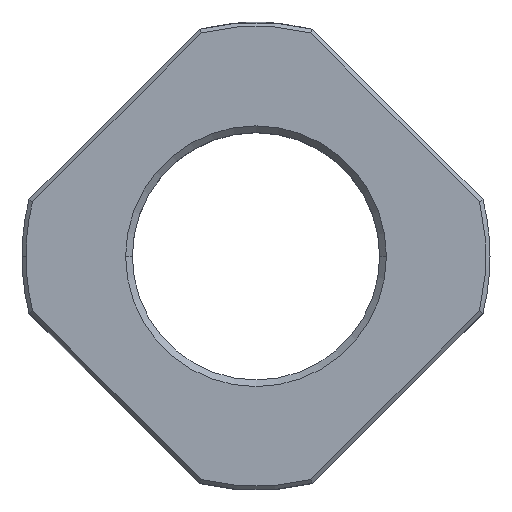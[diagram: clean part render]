
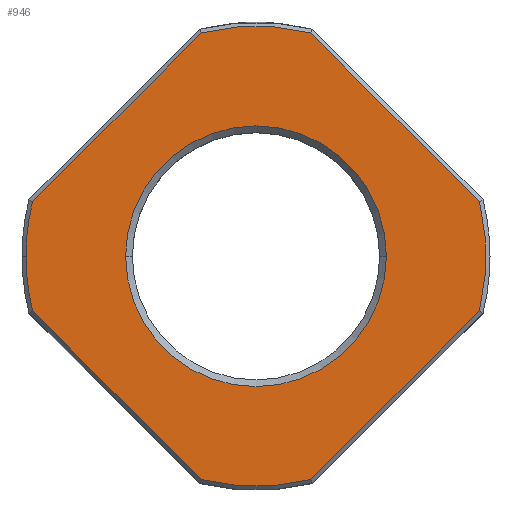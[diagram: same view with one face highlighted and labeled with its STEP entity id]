
A CAD part, top view. The second image highlights one B-rep face of the part: STEP entity #946.
In plain terms, the highlighted planar face has unit normal (0, 0, 1).
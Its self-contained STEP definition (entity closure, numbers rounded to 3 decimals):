
#51 = CARTESIAN_POINT ( 'NONE',  ( -9.75, 0., 0. ) ) ;
#63 = CARTESIAN_POINT ( 'NONE',  ( 0., 0., 0. ) ) ;
#72 = CARTESIAN_POINT ( 'NONE',  ( 9.75, 0., 0. ) ) ;
#73 = DIRECTION ( 'NONE',  ( 1., 0., 0. ) ) ;
#74 = DIRECTION ( 'NONE',  ( 0., 0., -1. ) ) ;
#75 = AXIS2_PLACEMENT_3D ( 'NONE', #63, #74, #73 ) ;
#76 = CIRCLE ( 'NONE', #75, 9.75 ) ;
#910 = ORIENTED_EDGE ( 'NONE', *, *, #911, .T. ) ;
#911 = EDGE_CURVE ( 'NONE', #1008, #1011, #2062, .T. ) ;
#913 = VERTEX_POINT ( 'NONE', #2056 ) ;
#914 = EDGE_CURVE ( 'NONE', #927, #918, #2097, .T. ) ;
#915 = ORIENTED_EDGE ( 'NONE', *, *, #921, .T. ) ;
#916 = EDGE_CURVE ( 'NONE', #964, #913, #2105, .T. ) ;
#918 = VERTEX_POINT ( 'NONE', #2136 ) ;
#919 = ORIENTED_EDGE ( 'NONE', *, *, #920, .T. ) ;
#920 = EDGE_CURVE ( 'NONE', #913, #927, #2134, .T. ) ;
#921 = EDGE_CURVE ( 'NONE', #918, #929, #2129, .T. ) ;
#922 = EDGE_LOOP ( 'NONE', ( #926, #910 ) ) ;
#925 = ORIENTED_EDGE ( 'NONE', *, *, #914, .T. ) ;
#926 = ORIENTED_EDGE ( 'NONE', *, *, #1010, .T. ) ;
#927 = VERTEX_POINT ( 'NONE', #2124 ) ;
#928 = EDGE_CURVE ( 'NONE', #929, #930, #2123, .T. ) ;
#929 = VERTEX_POINT ( 'NONE', #2119 ) ;
#930 = VERTEX_POINT ( 'NONE', #2118 ) ;
#931 = ORIENTED_EDGE ( 'NONE', *, *, #932, .T. ) ;
#932 = EDGE_CURVE ( 'NONE', #930, #933, #2117, .T. ) ;
#933 = VERTEX_POINT ( 'NONE', #2112 ) ;
#934 = ORIENTED_EDGE ( 'NONE', *, *, #935, .T. ) ;
#935 = EDGE_CURVE ( 'NONE', #933, #936, #2111, .T. ) ;
#936 = VERTEX_POINT ( 'NONE', #2049 ) ;
#937 = ORIENTED_EDGE ( 'NONE', *, *, #938, .T. ) ;
#938 = EDGE_CURVE ( 'NONE', #936, #963, #2048, .T. ) ;
#939 = ORIENTED_EDGE ( 'NONE', *, *, #962, .T. ) ;
#942 = EDGE_LOOP ( 'NONE', ( #947, #931, #934, #937, #939, #1186, #919, #925, #915 ) ) ;
#946 = ADVANCED_FACE ( 'NONE', ( #2081, #2080 ), #2079, .T. ) ;
#947 = ORIENTED_EDGE ( 'NONE', *, *, #928, .T. ) ;
#962 = EDGE_CURVE ( 'NONE', #963, #964, #2158, .T. ) ;
#963 = VERTEX_POINT ( 'NONE', #2187 ) ;
#964 = VERTEX_POINT ( 'NONE', #2186 ) ;
#1008 = VERTEX_POINT ( 'NONE', #51 ) ;
#1010 = EDGE_CURVE ( 'NONE', #1011, #1008, #76, .T. ) ;
#1011 = VERTEX_POINT ( 'NONE', #72 ) ;
#1186 = ORIENTED_EDGE ( 'NONE', *, *, #916, .T. ) ;
#2044 = DIRECTION ( 'NONE',  ( 1., 0., 0. ) ) ;
#2045 = DIRECTION ( 'NONE',  ( 0., 0., 1. ) ) ;
#2046 = CARTESIAN_POINT ( 'NONE',  ( 0., 0., 0. ) ) ;
#2047 = AXIS2_PLACEMENT_3D ( 'NONE', #2046, #2045, #2044 ) ;
#2048 = CIRCLE ( 'NONE', #2047, 17.2 ) ;
#2049 = CARTESIAN_POINT ( 'NONE',  ( -16.709, 4.08, 0. ) ) ;
#2050 = DIRECTION ( 'NONE',  ( -0.707, -0.707, 0. ) ) ;
#2051 = VECTOR ( 'NONE', #2050, 1000. ) ;
#2052 = CARTESIAN_POINT ( 'NONE',  ( 0.212, 21.001, 0. ) ) ;
#2053 = DIRECTION ( 'NONE',  ( 0., 0., -1. ) ) ;
#2054 = CARTESIAN_POINT ( 'NONE',  ( 0., 0., 0. ) ) ;
#2055 = AXIS2_PLACEMENT_3D ( 'NONE', #2054, #2053, #2057 ) ;
#2056 = CARTESIAN_POINT ( 'NONE',  ( -4.08, -16.709, 0. ) ) ;
#2057 = DIRECTION ( 'NONE',  ( 1., 0., 0. ) ) ;
#2062 = CIRCLE ( 'NONE', #2055, 9.75 ) ;
#2075 = DIRECTION ( 'NONE',  ( 1., 0., 0. ) ) ;
#2076 = DIRECTION ( 'NONE',  ( 0., 0., 1. ) ) ;
#2077 = CARTESIAN_POINT ( 'NONE',  ( 0., 21.213, 0. ) ) ;
#2078 = AXIS2_PLACEMENT_3D ( 'NONE', #2077, #2076, #2075 ) ;
#2079 = PLANE ( 'NONE',  #2078 ) ;
#2080 = FACE_BOUND ( 'NONE', #922, .T. ) ;
#2081 = FACE_OUTER_BOUND ( 'NONE', #942, .T. ) ;
#2092 = DIRECTION ( 'NONE',  ( 0.707, 0.707, 0. ) ) ;
#2095 = VECTOR ( 'NONE', #2092, 1000. ) ;
#2096 = CARTESIAN_POINT ( 'NONE',  ( 21.001, 0.212, 0. ) ) ;
#2097 = LINE ( 'NONE', #2096, #2095 ) ;
#2102 = DIRECTION ( 'NONE',  ( 0.707, -0.707, 0. ) ) ;
#2103 = VECTOR ( 'NONE', #2102, 1000. ) ;
#2104 = CARTESIAN_POINT ( 'NONE',  ( -21.001, 0.212, 0. ) ) ;
#2105 = LINE ( 'NONE', #2104, #2103 ) ;
#2111 = LINE ( 'NONE', #2052, #2051 ) ;
#2112 = CARTESIAN_POINT ( 'NONE',  ( -4.08, 16.709, 0. ) ) ;
#2113 = DIRECTION ( 'NONE',  ( 1., 0., 0. ) ) ;
#2114 = DIRECTION ( 'NONE',  ( 0., 0., 1. ) ) ;
#2115 = CARTESIAN_POINT ( 'NONE',  ( 0., 0., 0. ) ) ;
#2116 = AXIS2_PLACEMENT_3D ( 'NONE', #2115, #2114, #2113 ) ;
#2117 = CIRCLE ( 'NONE', #2116, 17.2 ) ;
#2118 = CARTESIAN_POINT ( 'NONE',  ( 4.08, 16.709, 0. ) ) ;
#2119 = CARTESIAN_POINT ( 'NONE',  ( 16.709, 4.08, 0. ) ) ;
#2120 = DIRECTION ( 'NONE',  ( -0.707, 0.707, 0. ) ) ;
#2121 = VECTOR ( 'NONE', #2120, 1000. ) ;
#2122 = CARTESIAN_POINT ( 'NONE',  ( -0.212, 21.001, 0. ) ) ;
#2123 = LINE ( 'NONE', #2122, #2121 ) ;
#2124 = CARTESIAN_POINT ( 'NONE',  ( 4.08, -16.709, 0. ) ) ;
#2125 = DIRECTION ( 'NONE',  ( 1., 0., 0. ) ) ;
#2126 = DIRECTION ( 'NONE',  ( 0., 0., 1. ) ) ;
#2127 = CARTESIAN_POINT ( 'NONE',  ( 0., 0., 0. ) ) ;
#2128 = AXIS2_PLACEMENT_3D ( 'NONE', #2127, #2126, #2125 ) ;
#2129 = CIRCLE ( 'NONE', #2128, 17.2 ) ;
#2130 = DIRECTION ( 'NONE',  ( 1., 0., 0. ) ) ;
#2131 = DIRECTION ( 'NONE',  ( 0., 0., 1. ) ) ;
#2132 = CARTESIAN_POINT ( 'NONE',  ( 0., 0., 0. ) ) ;
#2133 = AXIS2_PLACEMENT_3D ( 'NONE', #2132, #2131, #2130 ) ;
#2134 = CIRCLE ( 'NONE', #2133, 17.2 ) ;
#2136 = CARTESIAN_POINT ( 'NONE',  ( 16.709, -4.08, 0. ) ) ;
#2147 = DIRECTION ( 'NONE',  ( 1., 0., 0. ) ) ;
#2148 = DIRECTION ( 'NONE',  ( 0., 0., 1. ) ) ;
#2149 = CARTESIAN_POINT ( 'NONE',  ( 0., 0., 0. ) ) ;
#2150 = AXIS2_PLACEMENT_3D ( 'NONE', #2149, #2148, #2147 ) ;
#2158 = CIRCLE ( 'NONE', #2150, 17.2 ) ;
#2186 = CARTESIAN_POINT ( 'NONE',  ( -16.709, -4.08, 0. ) ) ;
#2187 = CARTESIAN_POINT ( 'NONE',  ( -17.2, 0., 0. ) ) ;
